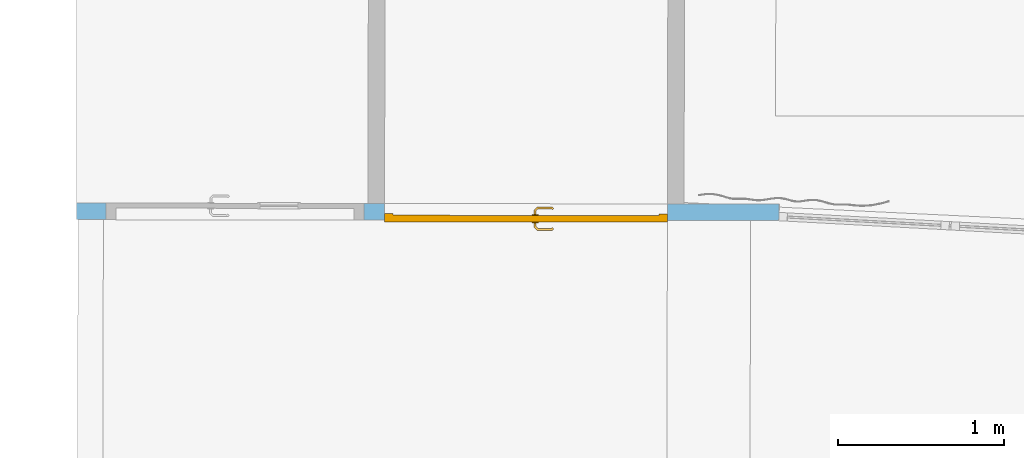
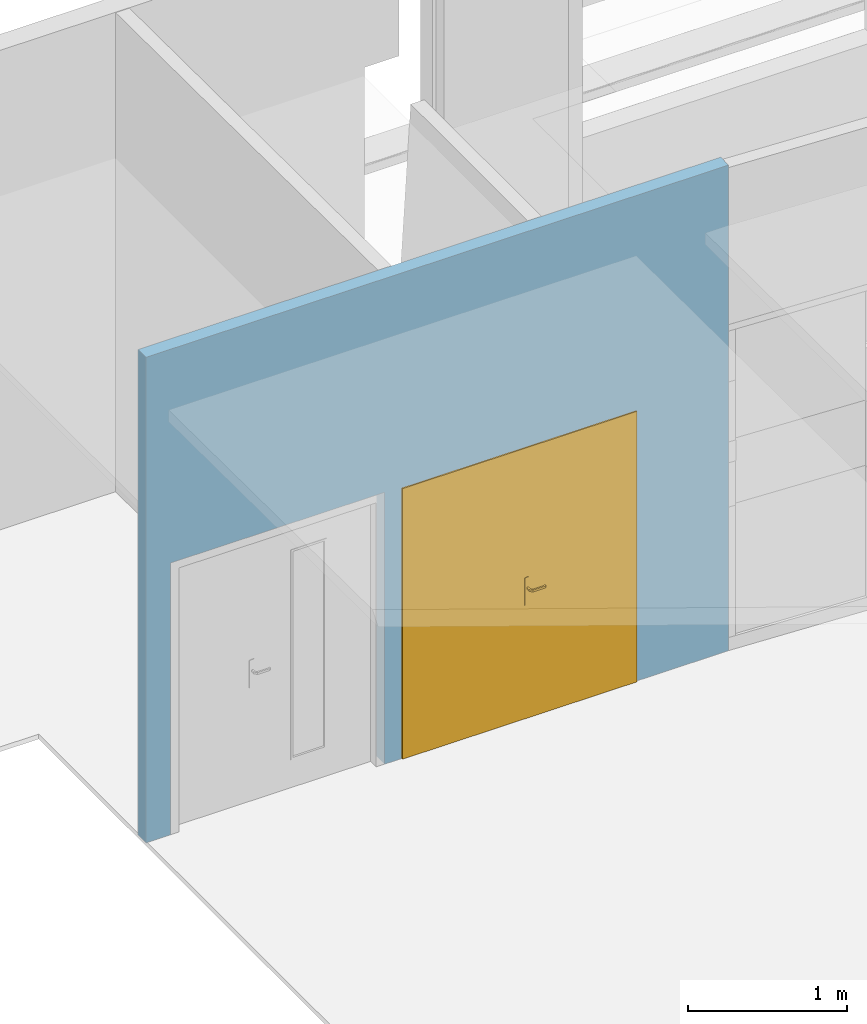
# One storey, part 20 of 43: 1 door, 2 openings, plus 1 element that does not belong to this part.
"""IFC2X3 building model written with IfcOpenShell, lengths in metres."""

from ifc_helpers import new_model, entity, si_unit, converted_unit, derived_unit, direction, frame, frame_2d, origin, place, context, subcontext, project, spatial, rectangle, extrude, faceted_brep, source, transform, mapped, material, material_list, layer, layer_set, type_object, type_shapes, element, fill, save


model = new_model("IFC2X3")

# Units and contexts
model_context = context("Model", 3, precision=1e-05, world=origin(), true_north=direction((6.123233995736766e-17, 1.0)))
body_context = subcontext(model_context, "Body", "Model", "MODEL_VIEW")
ifc_project = project(units=[si_unit("LENGTHUNIT", "METRE"), si_unit("AREAUNIT", "SQUARE_METRE"), converted_unit("PLANEANGLEUNIT", "DEGREE", entity("IfcPlaneAngleMeasure", 0.017453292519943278), si_unit("PLANEANGLEUNIT", "RADIAN"), dimensions=[0, 0, 0, 0, 0, 0, 0]), derived_unit("THERMALTRANSMITTANCEUNIT", [(si_unit("MASSUNIT", "GRAM", prefix="KILO"), 1), (si_unit("THERMODYNAMICTEMPERATUREUNIT", "KELVIN"), -1), (si_unit("TIMEUNIT", "SECOND"), -3)])], contexts=[model_context])

# Site, building, storey
site_placement = place(None, frame((1253.6752467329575, 2072.143113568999, 91.49999999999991), z_axis=(0.0, 0.0, 1.0), x_axis=(0.7237211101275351, 0.6900925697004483, 0.0)))
site = spatial("IfcSite", under=ifc_project, at=site_placement, Name="Surface", CompositionType="ELEMENT")
building_placement = place(site_placement, origin())
building = spatial("IfcBuilding", under=site, at=building_placement, CompositionType="ELEMENT")
storey_placement = place(building_placement, frame((0.0, 0.0, -4.629999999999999)))
storey = spatial("IfcBuildingStorey", under=building, at=storey_placement, Name="rez de rue -1.10m", CompositionType="ELEMENT", Elevation=-4.629999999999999)

# Wall, openings, door
ifc_material_1 = material(Name="OMD_Cloison 100mm CF1h")
ifc_layer = layer(ifc_material_1, 0.1)
ifc_layer_set = layer_set([ifc_layer], Name="Mur de base:Cloison 100mm CF1h")
wall_type = type_object("IfcWallType", Name="Mur de base:Cloison 100mm CF1h", PredefinedType="STANDARD", material=ifc_layer_set)
wall_placement = place(storey_placement, frame((173.47204840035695, 15.197747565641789, 0.0), z_axis=(0.0, 0.0, 1.0), x_axis=(0.7227070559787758, -0.6911544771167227, 0.0)))
wall = element("IfcWall", 1, at=wall_placement, inside=storey, type_object=wall_type, Name="Mur de base:Cloison 100mm CF1h", ObjectType="Mur de base:Cloison 100mm CF1h", context=body_context, shape_type="Brep", body=[
    faceted_brep([(4.221571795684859, -0.05000000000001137, 3.7231694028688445), (2.3611774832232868e-05, -0.05000000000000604, 3.7231694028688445), (2.361177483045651e-05, -0.05000000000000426, 0.0), (0.0025107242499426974, -0.05000000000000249, 0.0), (0.1625107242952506, -0.05000000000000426, 0.0), (0.1779607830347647, -0.049999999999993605, 0.0), (0.1779607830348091, -0.04999999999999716, 2.085), (1.7279607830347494, -0.04999999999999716, 2.085), (1.7279607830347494, -0.04999999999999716, 0.0), (1.8529607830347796, -0.05000000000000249, 0.0), (1.8529607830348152, -0.05000000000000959, 2.0749999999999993), (3.55296078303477, -0.049999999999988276, 2.0749999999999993), (3.552960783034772, -0.04999999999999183, 0.0), (4.221571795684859, -0.05000000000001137, 0.0), (0.0, 0.05000000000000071, 3.7231694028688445), (4.224190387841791, 0.04999999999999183, 3.7231694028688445), (4.224190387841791, 0.04999999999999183, 0.0), (3.65296078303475, 0.04999999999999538, 0.0), (3.552960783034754, 0.049999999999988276, 0.0), (3.552960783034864, 0.05000000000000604, 2.0749999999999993), (1.8529607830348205, 0.05000000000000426, 2.0749999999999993), (1.852960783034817, 0.050000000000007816, 0.0), (1.7529607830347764, 0.05000000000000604, 0.0), (1.7279607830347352, 0.049999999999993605, 0.0), (1.7279607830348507, 0.05000000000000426, 2.085), (0.1779607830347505, 0.04999999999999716, 2.085), (0.17796078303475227, 0.04999999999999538, 0.0), (0.0, 0.05000000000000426, 0.0)], [[[0, 1, 2, 3, 4, 5, 6, 7, 8, 9, 10, 11, 12, 13]], [[14, 15, 16, 17, 18, 19, 20, 21, 22, 23, 24, 25, 26, 27]], [[25, 6, 5, 26]], [[6, 25, 24, 7]], [[7, 24, 23, 8]], [[5, 4, 3, 2, 27, 26]], [[1, 0, 15, 14]], [[1, 14, 27, 2]], [[11, 19, 18, 12]], [[19, 11, 10, 20]], [[20, 10, 9, 21]], [[0, 13, 16, 15]], [[8, 23, 22, 21, 9]], [[16, 13, 12, 18, 17]]]),
])
opening_1_placement = place(wall_placement, frame((0.17796078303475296, -0.05000000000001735, 0.0)))
element("IfcOpeningElement", 2, at=opening_1_placement, cuts=wall, Name="OMD_Porte 2V tunnel:140x204 +occulus:1", ObjectType="Opening", context=body_context, shape_type="SweptSolid", body=[
    extrude(rectangle(XDim=2.085, YDim=1.5499999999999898, at=frame_2d((1.0425, 0.7749999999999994), x_axis=(1.0, 0.0))), frame((0.0, 0.0, 0.0), z_axis=(0.0, 1.0, 0.0), x_axis=(0.0, 0.0, 1.0)), (0.0, 0.0, 1.0), 0.09999999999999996),
])
opening_2_placement = place(wall_placement, frame((3.5529607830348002, 0.049999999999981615, 0.0)))
opening_2 = element("IfcOpeningElement", 3, at=opening_2_placement, cuts=wall, Name="Double (T):1.63m x 2.04m:1", ObjectType="Opening", context=body_context, shape_type="SweptSolid", body=[
    extrude(rectangle(XDim=2.0749999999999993, YDim=1.699999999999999, at=frame_2d((1.0374999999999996, 0.8499999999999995), x_axis=(1.0, 0.0))), frame((0.0, 0.0, 0.0), z_axis=(0.0, -1.0, 0.0), x_axis=(0.0, 0.0, 1.0)), (0.0, 0.0, 1.0), 0.09999999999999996),
])
ifc_material_2 = material(Name="Porte - Poignée")
ifc_material_3 = material(Name="OMD_BLEU T1 23 25-SIKKKENS")
ifc_material_list = material_list([ifc_material_2, ifc_material_3])
door_style = type_object("IfcDoorStyle", Name="Double (T):1.63m x 2.04m", ConstructionType="NOTDEFINED", OperationType="DOUBLE_DOOR_SINGLE_SWING", ParameterTakesPrecedence=False, Sizeable=False, material=ifc_material_list)
shared_shape = source(origin(), body_context, "Body", "Brep", [
    faceted_brep([(0.9029747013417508, 0.035000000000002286, 1.007780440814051), (0.8989999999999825, 0.035000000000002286, 1.0069999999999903), (0.8989999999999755, 0.035000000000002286, 0.9929999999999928), (0.9029747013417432, 0.035000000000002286, 0.9922195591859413), (0.9070252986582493, 0.035000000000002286, 0.9922195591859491), (0.9110000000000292, 0.035000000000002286, 0.9930000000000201), (0.9110000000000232, 0.035000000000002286, 1.006999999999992), (0.9070252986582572, 0.035000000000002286, 1.0077804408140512), (0.9110000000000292, 0.05748520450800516, 0.9930000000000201), (0.9110000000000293, 0.057485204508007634, 1.006999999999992), (0.9070252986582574, 0.05913157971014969, 1.0077804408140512), (0.9208389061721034, 0.07294518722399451, 1.0077804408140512), (0.9191610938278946, 0.07699578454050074, 1.007780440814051), (0.9029747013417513, 0.06080939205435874, 1.007780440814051), (1.0106847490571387, 0.06646731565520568, 1.007780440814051), (1.013548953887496, 0.06933152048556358, 1.0077804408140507), (1.0058846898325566, 0.07699578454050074, 1.0077804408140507), (1.0042068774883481, 0.07294518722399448, 1.007780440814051), (0.8989999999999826, 0.06245576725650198, 1.0069999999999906), (0.8989999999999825, 0.062455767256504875, 0.9929999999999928), (0.902974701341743, 0.06080939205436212, 0.9922195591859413), (0.9191610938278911, 0.0769957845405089, 0.9922195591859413), (0.9208389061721, 0.07294518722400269, 0.9922195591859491), (0.9070252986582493, 0.059131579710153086, 0.9922195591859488), (1.0135489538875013, 0.069331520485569, 0.9922195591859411), (1.0106847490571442, 0.06646731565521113, 0.9922195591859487), (1.0042068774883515, 0.07294518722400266, 0.9922195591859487), (1.0058846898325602, 0.07699578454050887, 0.9922195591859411), (0.9224852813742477, 0.06897048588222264, 0.9930000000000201), (0.9224852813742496, 0.06897048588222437, 1.006999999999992), (0.9175147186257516, 0.08097048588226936, 1.0069999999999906), (0.9175147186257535, 0.08097048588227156, 0.9929999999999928), (0.9625228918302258, 0.06897048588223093, 0.9930000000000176), (1.0025605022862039, 0.06897048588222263, 0.9930000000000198), (1.0025605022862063, 0.06897048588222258, 1.0069999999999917), (0.9625228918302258, 0.06897048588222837, 1.006999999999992), (0.9625228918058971, 0.07512492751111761, 1.0078781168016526), (1.0075310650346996, 0.08097048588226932, 1.0069999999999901), (0.9676005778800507, 0.08097048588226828, 1.0069999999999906), (1.0075310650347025, 0.0809704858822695, 0.9929999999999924), (0.9574452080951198, 0.08097048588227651, 0.9929999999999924), (0.9625228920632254, 0.07512492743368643, 0.9921218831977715), (1.0078742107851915, 0.06365677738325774, 0.9930000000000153), (1.0163594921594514, 0.07214205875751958, 0.9929999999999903), (1.0163594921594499, 0.07214205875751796, 1.006999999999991), (1.0078742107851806, 0.06365677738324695, 1.00699999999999)], [[[0, 1, 2, 3, 4, 5, 6, 7]], [[6, 5, 8, 9]], [[9, 10, 7, 6]], [[10, 11, 12, 13, 0, 7]], [[14, 15, 16, 17]], [[13, 18, 1, 0]], [[2, 1, 18, 19]], [[19, 20, 3, 2]], [[20, 21, 22, 23, 4, 3]], [[24, 25, 26, 27]], [[23, 8, 5, 4]], [[9, 8, 28, 29]], [[29, 11, 10, 9]], [[12, 30, 18, 13]], [[19, 18, 30, 31]], [[31, 21, 20, 19]], [[22, 28, 8, 23]], [[29, 28, 32, 33, 34, 35]], [[11, 35, 36]], [[16, 37, 38]], [[30, 12, 38]], [[38, 12, 36]], [[36, 35, 17]], [[17, 16, 36]], [[35, 11, 29]], [[34, 17, 35]], [[11, 36, 12]], [[38, 36, 16]], [[31, 30, 38, 37, 39, 40]], [[40, 41, 21]], [[41, 40, 27]], [[21, 31, 40]], [[39, 27, 40]], [[41, 32, 22]], [[22, 21, 41]], [[26, 32, 41]], [[28, 22, 32]], [[32, 26, 33]], [[26, 41, 27]], [[42, 25, 24, 43, 44, 15, 14, 45]], [[34, 33, 42, 45]], [[45, 14, 17, 34]], [[15, 44, 37, 16]], [[39, 37, 44, 43]], [[43, 24, 27, 39]], [[25, 42, 33, 26]]]),
    faceted_brep([(0.9029747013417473, -0.014999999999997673, 1.0077804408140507), (0.9070252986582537, -0.014999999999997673, 1.0077804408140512), (0.9110000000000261, -0.014999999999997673, 1.0069999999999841), (0.9110000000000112, -0.014999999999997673, 0.9930000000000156), (0.9070252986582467, -0.014999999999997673, 0.9922195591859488), (0.9029747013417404, -0.014999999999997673, 0.9922195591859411), (0.8989999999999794, -0.014999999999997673, 0.9929999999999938), (0.8989999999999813, -0.014999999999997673, 1.006999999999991), (0.8989999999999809, -0.04265095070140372, 1.006999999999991), (0.9029747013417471, -0.04100457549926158, 1.0077804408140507), (0.9190235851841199, -0.057053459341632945, 1.0077804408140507), (0.9207013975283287, -0.053002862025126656, 1.0077804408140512), (0.9070252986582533, -0.0393267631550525, 1.0077804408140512), (1.0135218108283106, -0.049389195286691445, 1.0077804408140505), (1.0106576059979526, -0.046524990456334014, 1.007780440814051), (1.0041797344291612, -0.053002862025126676, 1.007780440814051), (1.0058575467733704, -0.05705345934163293, 1.0077804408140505), (0.9110000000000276, -0.037680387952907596, 1.0069999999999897), (0.9110000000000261, -0.03768038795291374, 0.9930000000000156), (0.9070252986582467, -0.0393267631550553, 0.9922195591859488), (0.9207013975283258, -0.05300286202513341, 0.9922195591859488), (0.919023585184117, -0.05705345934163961, 0.9922195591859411), (0.9029747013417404, -0.04100457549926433, 0.9922195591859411), (1.0106576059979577, -0.046524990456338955, 0.9922195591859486), (1.0135218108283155, -0.04938919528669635, 0.9922195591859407), (1.005857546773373, -0.05705345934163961, 0.9922195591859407), (1.004179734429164, -0.05300286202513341, 0.9922195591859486), (0.8989999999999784, -0.04265095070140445, 0.9929999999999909), (0.9173772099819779, -0.06102816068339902, 1.006999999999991), (0.9223477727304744, -0.0490281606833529, 1.0069999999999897), (0.9223477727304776, -0.049028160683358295, 0.9930000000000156), (0.9173772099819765, -0.0610281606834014, 0.9929999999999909), (0.957307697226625, -0.061028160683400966, 1.0069999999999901), (0.9624405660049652, -0.05518280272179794, 1.0078781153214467), (1.0075039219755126, -0.06102816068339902, 1.0069999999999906), (0.9624405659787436, -0.04902816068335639, 1.0069999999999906), (1.0025333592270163, -0.049028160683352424, 1.0069999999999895), (1.0025333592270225, -0.049028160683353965, 0.9930000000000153), (0.9624405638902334, -0.0490281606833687, 0.9930000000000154), (0.9624405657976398, -0.05518280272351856, 0.9921218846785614), (1.0075039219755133, -0.06102816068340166, 0.9929999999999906), (0.9675734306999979, -0.061028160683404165, 0.9929999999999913), (1.0078470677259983, -0.04371445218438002, 1.0069999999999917), (1.0163323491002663, -0.052199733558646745, 1.0069999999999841), (1.0163323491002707, -0.052199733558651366, 0.9929999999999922), (1.0078470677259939, -0.043714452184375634, 0.9930000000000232)], [[[0, 1, 2, 3, 4, 5, 6, 7]], [[8, 9, 0, 7]], [[9, 10, 11, 12, 1, 0]], [[13, 14, 15, 16]], [[12, 17, 2, 1]], [[3, 2, 17, 18]], [[18, 19, 4, 3]], [[19, 20, 21, 22, 5, 4]], [[23, 24, 25, 26]], [[22, 27, 6, 5]], [[7, 6, 27, 8]], [[28, 10, 9, 8]], [[11, 29, 17, 12]], [[18, 17, 29, 30]], [[30, 20, 19, 18]], [[21, 31, 27, 22]], [[8, 27, 31, 28]], [[32, 33, 10]], [[33, 32, 16]], [[10, 28, 32]], [[34, 16, 32]], [[33, 35, 11]], [[11, 10, 33]], [[15, 35, 33]], [[29, 11, 35]], [[35, 15, 36]], [[15, 33, 16]], [[30, 29, 35, 36, 37, 38]], [[20, 38, 39]], [[25, 40, 41]], [[31, 21, 41]], [[41, 21, 39]], [[39, 38, 26]], [[26, 25, 39]], [[38, 20, 30]], [[37, 26, 38]], [[20, 39, 21]], [[41, 39, 25]], [[28, 31, 41, 40, 34, 32]], [[42, 14, 13, 43, 44, 24, 23, 45]], [[43, 13, 16, 34]], [[14, 42, 36, 15]], [[37, 36, 42, 45]], [[45, 23, 26, 37]], [[24, 44, 40, 25]], [[34, 40, 44, 43]]]),
    faceted_brep([(0.9153527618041, 0.03000000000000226, 0.8660039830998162), (0.9249999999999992, 0.03000000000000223, 0.8700000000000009), (0.924999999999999, 0.03000000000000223, 1.0800000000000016), (0.9153527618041, 0.03000000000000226, 1.0839960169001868), (0.9049999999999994, 0.030000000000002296, 1.0853589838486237), (0.8946472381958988, 0.030000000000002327, 1.0839960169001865), (0.8849999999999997, 0.030000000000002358, 1.0800000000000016), (0.8849999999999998, 0.030000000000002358, 0.8700000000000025), (0.8946472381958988, 0.030000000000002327, 0.866003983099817), (0.9049999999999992, 0.030000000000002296, 0.8646410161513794), (0.9153527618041, 0.035000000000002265, 1.0839960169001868), (0.9249999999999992, 0.03500000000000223, 1.0800000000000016), (0.9249999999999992, 0.03500000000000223, 0.8700000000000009), (0.9153527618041, 0.035000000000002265, 0.8660039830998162), (0.9049999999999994, 0.0350000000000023, 0.8646410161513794), (0.8946472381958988, 0.03500000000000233, 0.866003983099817), (0.8849999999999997, 0.03500000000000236, 0.8700000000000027), (0.8849999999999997, 0.03500000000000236, 1.0800000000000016), (0.8946472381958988, 0.03500000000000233, 1.0839960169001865), (0.9049999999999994, 0.0350000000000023, 1.0853589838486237)], [[[0, 1, 2, 3, 4, 5, 6, 7, 8, 9]], [[10, 11, 12, 13, 14, 15, 16, 17, 18, 19]], [[11, 10, 3, 2]], [[3, 10, 19, 4]], [[19, 18, 5, 4]], [[18, 17, 6, 5]], [[7, 6, 17, 16]], [[16, 15, 8, 7]], [[8, 15, 14, 9]], [[14, 13, 0, 9]], [[13, 12, 1, 0]], [[2, 1, 12, 11]]]),
    faceted_brep([(0.9153527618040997, -0.014999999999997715, 0.8660039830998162), (0.924999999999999, -0.01499999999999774, 0.8700000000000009), (0.9249999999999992, -0.01499999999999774, 1.0800000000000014), (0.9153527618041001, -0.014999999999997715, 1.0839960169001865), (0.9049999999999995, -0.014999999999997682, 1.0853589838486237), (0.8946472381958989, -0.014999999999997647, 1.0839960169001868), (0.8849999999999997, -0.014999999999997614, 1.0800000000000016), (0.8849999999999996, -0.014999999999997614, 0.8700000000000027), (0.8946472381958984, -0.014999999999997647, 0.8660039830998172), (0.904999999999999, -0.014999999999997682, 0.8646410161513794), (0.9153527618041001, -0.009999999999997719, 1.0839960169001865), (0.924999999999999, -0.009999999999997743, 1.0800000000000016), (0.924999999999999, -0.009999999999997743, 0.8700000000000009), (0.9153527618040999, -0.009999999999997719, 0.8660039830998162), (0.904999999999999, -0.009999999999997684, 0.8646410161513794), (0.8946472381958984, -0.009999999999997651, 0.8660039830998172), (0.8849999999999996, -0.009999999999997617, 0.8700000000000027), (0.8849999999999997, -0.009999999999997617, 1.0800000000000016), (0.8946472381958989, -0.009999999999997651, 1.0839960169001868), (0.9049999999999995, -0.009999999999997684, 1.0853589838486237)], [[[0, 1, 2, 3, 4, 5, 6, 7, 8, 9]], [[10, 11, 12, 13, 14, 15, 16, 17, 18, 19]], [[16, 15, 8, 7]], [[8, 15, 14, 9]], [[14, 13, 0, 9]], [[13, 12, 1, 0]], [[2, 1, 12, 11]], [[11, 10, 3, 2]], [[3, 10, 19, 4]], [[19, 18, 5, 4]], [[18, 17, 6, 5]], [[7, 6, 17, 16]]]),
    faceted_brep([(0.0, 0.04000000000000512, 0.0), (0.0499999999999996, 0.04000000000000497, 0.0), (0.0499999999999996, 0.030000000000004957, 0.0), (0.03500000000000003, 0.03000000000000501, 0.0), (0.03499999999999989, -0.009999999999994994, 0.0), (0.0, -0.009999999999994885, 0.0), (0.0, 0.04000000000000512, 2.0749999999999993), (1.699999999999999, 0.039999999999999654, 2.074999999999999), (1.6999999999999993, 0.03999999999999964, 0.0), (1.65, 0.03999999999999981, 0.0), (1.6500000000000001, 0.03999999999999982, 2.025), (0.0499999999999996, 0.04000000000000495, 2.0249999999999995), (0.0499999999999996, 0.030000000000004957, 2.0249999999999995), (1.6499999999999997, 0.029999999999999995, 2.025), (1.65, 0.029999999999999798, 0.0), (1.6649999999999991, 0.029999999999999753, 0.0), (1.6649999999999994, 0.029999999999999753, 2.039999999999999), (0.03500000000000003, 0.03000000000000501, 2.039999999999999), (0.03499999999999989, -0.009999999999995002, 2.039999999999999), (1.664999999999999, -0.010000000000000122, 2.0399999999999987), (1.664999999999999, -0.010000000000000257, 0.0), (1.6999999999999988, -0.010000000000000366, 0.0), (1.699999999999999, -0.010000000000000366, 2.0749999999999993), (0.0, -0.009999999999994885, 2.0749999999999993)], [[[0, 1, 2, 3, 4, 5]], [[1, 0, 6, 7, 8, 9, 10, 11]], [[2, 1, 11, 12]], [[3, 2, 12, 13, 14, 15, 16, 17]], [[4, 3, 17, 18]], [[5, 4, 18, 19, 20, 21, 22, 23]], [[0, 5, 23, 6]], [[7, 22, 21, 8]], [[8, 21, 20, 15, 14, 9]], [[13, 10, 9, 14]], [[19, 16, 15, 20]], [[12, 11, 10, 13]], [[18, 17, 16, 19]], [[6, 23, 22, 7]]]),
    faceted_brep([(1.664999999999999, -0.010000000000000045, 0.0), (1.664999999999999, -0.010000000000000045, 2.039999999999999), (0.8499999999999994, -0.009999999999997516, 2.039999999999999), (0.8499999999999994, -0.009999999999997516, 0.0), (1.664999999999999, 0.029999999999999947, 0.0), (0.8499999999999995, 0.030000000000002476, 0.0), (0.8499999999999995, 0.030000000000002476, 2.039999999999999), (1.664999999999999, 0.029999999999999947, 2.039999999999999)], [[[0, 1, 2, 3]], [[4, 5, 6, 7]], [[1, 0, 4, 7]], [[2, 1, 7, 6]], [[3, 2, 6, 5]], [[0, 3, 5, 4]]]),
    faceted_brep([(0.03499999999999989, -0.009999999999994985, 2.039999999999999), (0.03499999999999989, -0.009999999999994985, 0.0), (0.8499999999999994, -0.009999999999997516, 0.0), (0.8499999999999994, -0.009999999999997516, 2.039999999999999), (0.03500000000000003, 0.030000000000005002, 2.039999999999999), (0.8499999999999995, 0.030000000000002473, 2.039999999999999), (0.8499999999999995, 0.030000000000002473, 0.0), (0.03500000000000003, 0.030000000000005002, 0.0)], [[[0, 1, 2, 3]], [[4, 5, 6, 7]], [[1, 0, 4, 7]], [[2, 1, 7, 6]], [[3, 2, 6, 5]], [[0, 3, 5, 4]]]),
])
type_shapes(door_style, [shared_shape])
door_placement = place(opening_2_placement, frame((-1.6999999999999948, -0.09999999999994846, 0.0)))
door = element("IfcDoor", 4, at=door_placement, inside=storey, type_object=door_style, material=ifc_material_list, Name="Double (T):1.63m x 2.04m", ObjectType="Double (T):1.63m x 2.04m", OverallHeight=2.0749999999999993, OverallWidth=1.7000000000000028, context=body_context, shape_type="MappedRepresentation", body=[
    mapped(shared_shape, transform((0.0, 0.0, 0.0), scale=1.0)),
])
fill(opening_2, door)

save(model, "model.ifc")
